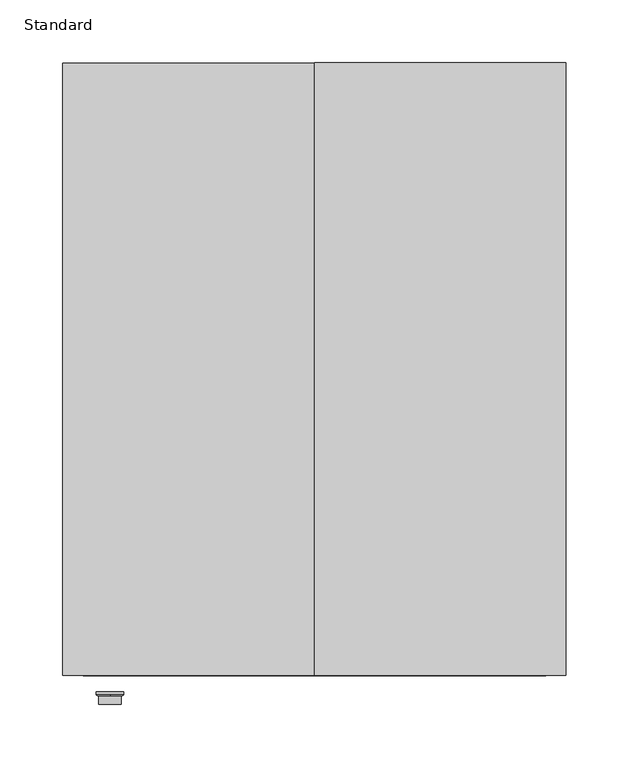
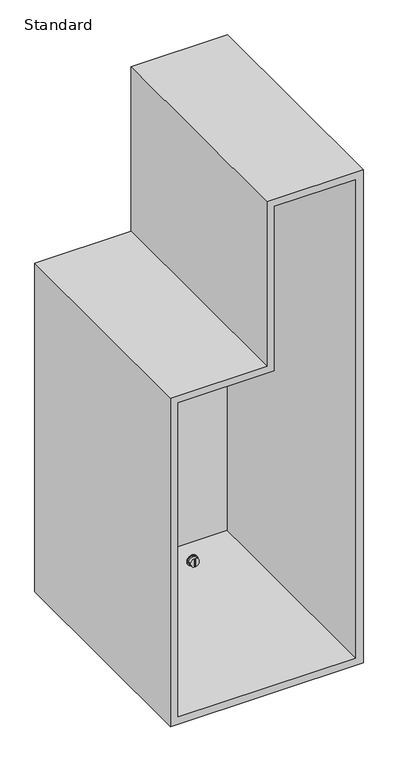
"""IFC4 building model written with IfcOpenShell, lengths in millimetres: furniture geometry, X_Locker-Duracube-Bay : Standard."""

from ifc_helpers import new_model, si_unit, point, frame, frame_2d, origin, place, context, project, spatial, polyline, circle_curve, ellipse_curve, trimmed, segment, composite_curve, outline, extrude, faceted_brep, source, transform, mapped, element, save
from ifc_brep_helpers import plane_surface, revolved_surface, advanced_brep


def standard_77ee1bcb(model_context):
    return source(origin(), model_context, "Body", "SolidModel", [
        extrude(outline(composite_curve([segment(trimmed(circle_curve(frame_2d((360.0, -117.7996736)), 11.0), [point((360.0, -128.7996736))], [point((360.0, -106.7996736))], False, "CARTESIAN"), True, "CONTINUOUS"), segment(trimmed(circle_curve(frame_2d((360.0, -117.7996736)), 11.0), [point((360.0, -106.7996736))], [point((360.0, -128.7996736))], False, "CARTESIAN"), True, "CONTINUOUS")], self_intersect=False)), frame((0.0, -502.0, 0.0), z_axis=(0.0, 1.0, 0.0), x_axis=(0.0, 0.0, 1.0)), (0.0, 0.0, 1.0), 2.0),
        advanced_brep(
        [(-117.7996736, -503.0, 351.0), (-117.7996736, -503.0, 369.0), (-117.7996736, -502.0, 371.0), (-117.7996736, -502.0, 349.0), (-117.7996736, -502.0, 351.0), (-117.7996736, -502.0, 369.0)],
        [
            (0, 1, circle_curve(frame((-117.7996736, -503.0, 360.0), z_axis=(0.0, 1.0, 0.0), x_axis=(0.0, 0.0, 1.0)), 9.0)),
            (1, 2, ellipse_curve(frame((-117.7996736, -502.0, 369.0), z_axis=(-1.0, 0.0, 0.0), x_axis=(0.0, 0.0, 1.0)), 2.0, 1.0)),
            (2, 3, circle_curve(frame((-117.7996736, -502.0, 360.0), z_axis=(0.0, -1.0, 0.0), x_axis=(0.0, 0.0, 1.0)), 11.0)),
            (3, 0, ellipse_curve(frame((-117.7996736, -502.0, 351.0), z_axis=(-1.0, 0.0, 0.0), x_axis=(0.0, 0.0, -1.0)), 2.0, 1.0)),
            (1, 0, circle_curve(frame((-117.7996736, -503.0, 360.0), z_axis=(0.0, 1.0, 0.0), x_axis=(0.0, 0.0, 1.0)), 9.0)),
            (3, 2, circle_curve(frame((-117.7996736, -502.0, 360.0), z_axis=(0.0, -1.0, 0.0), x_axis=(0.0, 0.0, 1.0)), 11.0)),
            (4, 5, circle_curve(frame((-117.7996736, -502.0, 360.0), z_axis=(0.0, 1.0, 0.0), x_axis=(0.0, 0.0, 1.0)), 9.0)),
            (5, 1),
            (0, 4),
            (5, 4, circle_curve(frame((-117.7996736, -502.0, 360.0), z_axis=(0.0, 1.0, 0.0), x_axis=(0.0, 0.0, 1.0)), 9.0)),
            (2, 5),
            (4, 3),
        ],
        [
            revolved_surface(trimmed(ellipse_curve(frame((-117.7996736, -502.0, 369.0), z_axis=(1.0, 0.0, 0.0), x_axis=(0.0, 0.0, 1.0)), 2.0, 1.0), [point((-117.7996736, -502.0, 371.0))], [point((-117.7996736, -503.0, 369.0))], True, "CARTESIAN"), (-117.7996736, -502.0, 360.0), (0.0, -1.0, 0.0)),
            revolved_surface(polyline([(-117.7996736, -503.0, 369.0), (-117.7996736, -502.0, 369.0)]), (-117.7996736, -502.0, 360.0), (0.0, -1.0, 0.0)),
            plane_surface(frame((-117.7996736, -502.0, 360.0), z_axis=(0.0, 1.0, 0.0), x_axis=(0.0, 0.0, 1.0))),
        ],
        [
            (0, [[1, 2, 3, 4]]),
            (0, [[5, -4, 6, -2]]),
            (1, [[7, 8, -1, 9]]),
            (1, [[10, -9, -5, -8]]),
            (2, [[-3, 11, -7, 12]]),
            (2, [[-6, -12, -10, -11]]),
        ],
    ),
        extrude(outline(polyline([(-116.7996736, -509.0), (-118.7996736, -509.0), (-118.7996736, -507.0), (-116.7996736, -507.0), (-116.7996736, -509.0)])), frame((0.0, 0.0, 353.0), z_axis=(0.0, 0.0, 1.0), x_axis=(1.0, 0.0, 0.0)), (0.0, 0.0, 1.0), 14.0),
        extrude(outline(composite_curve([segment(trimmed(circle_curve(frame_2d((360.0, -117.7996736)), 9.0), [point((360.0, -126.7996736))], [point((360.0, -108.7996736))], False, "CARTESIAN"), True, "CONTINUOUS"), segment(trimmed(circle_curve(frame_2d((360.0, -117.7996736)), 9.0), [point((360.0, -108.7996736))], [point((360.0, -126.7996736))], False, "CARTESIAN"), True, "CONTINUOUS")], self_intersect=False), holes=[polyline([(367.0, -116.7996736), (353.0, -116.7996736), (353.0, -118.7996736), (367.0, -118.7996736), (367.0, -116.7996736)])]), frame((0.0, -510.0, 0.0), z_axis=(0.0, 1.0, 0.0), x_axis=(0.0, 0.0, 1.0)), (0.0, 0.0, 1.0), 8.0),
        faceted_brep([(44.7003264, -487.0, 720.0), (-155.2996736, -487.0, 720.0), (-155.2996736, -487.0, 0.0), (244.7003264, -487.0, 0.0), (244.7003264, -487.0, 1080.0), (44.7003264, -487.0, 1080.0), (60.7003264, -487.0, 704.0), (60.7003264, -487.0, 1064.0), (228.7003264, -487.0, 1064.0), (228.7003264, -487.0, 16.0), (-139.2996736, -487.0, 16.0), (-139.2996736, -487.0, 704.0), (44.7003264, 0.0, 720.0), (-155.2996736, 0.0, 720.0), (-155.2996736, 0.0, 0.0), (244.7003264, 0.0, 0.0), (244.7003264, 0.0, 1080.0), (44.7003264, 0.0, 1080.0), (60.7003264, -26.0, 704.0), (60.7003264, -26.0, 1064.0), (60.7003264, 0.0, 704.0), (60.7003264, 0.0, 1064.0), (60.7003264, -10.0, 1064.0), (60.7003264, -10.0, 704.0), (228.7003264, -26.0, 1064.0), (228.7003264, -26.0, 16.0), (228.7003264, 0.0, 1064.0), (228.7003264, 0.0, 16.0), (228.7003264, -10.0, 16.0), (228.7003264, -10.0, 1064.0), (-139.2996736, -26.0, 16.0), (-139.2996736, 0.0, 16.0), (-139.2996736, -10.0, 16.0), (-139.2996736, -26.0, 704.0), (-139.2996736, 0.0, 704.0), (-139.2996736, -10.0, 704.0)], [[[0, 1, 2, 3, 4, 5], [6, 7, 8, 9, 10, 11]], [[1, 0, 12, 13]], [[2, 1, 13, 14]], [[3, 2, 14, 15]], [[4, 3, 15, 16]], [[0, 5, 17, 12]], [[7, 6, 18, 19]], [[20, 21, 22, 23]], [[9, 8, 24, 25]], [[26, 27, 28, 29]], [[10, 9, 25, 30]], [[27, 31, 32, 28]], [[11, 10, 30, 33]], [[31, 34, 35, 32]], [[6, 11, 33, 18]], [[34, 20, 23, 35]], [[12, 17, 16, 15, 14, 13], [20, 34, 31, 27, 26, 21]], [[19, 18, 33, 30, 25, 24]], [[5, 4, 16, 17]], [[8, 7, 19, 24]], [[21, 26, 29, 22]], [[23, 22, 29, 28, 32, 35]]]),
    ])


if __name__ == "__main__":
    model = new_model("IFC4")
    model_context = context("Model", 3, world=origin())
    ifc_project = project(units=[si_unit("LENGTHUNIT", "METRE", prefix="MILLI")], contexts=[model_context])
    site = spatial("IfcSite", under=ifc_project)
    building = spatial("IfcBuilding", under=site)
    placement = place(None, origin())
    standard_shape = standard_77ee1bcb(model_context)
    element("IfcFurniture", 1, ObjectType="X_Locker-Duracube-Bay : Standard", at=placement, inside=building, context=model_context, shape_type="MappedRepresentation", body=[
        mapped(standard_shape, transform((0.0, 0.0, 0.0), x_axis=(1.0, 0.0, 0.0), y_axis=(0.0, 1.0, 0.0), z_axis=(0.0, 0.0, 1.0))),
    ])
    save(model, "model.ifc")
